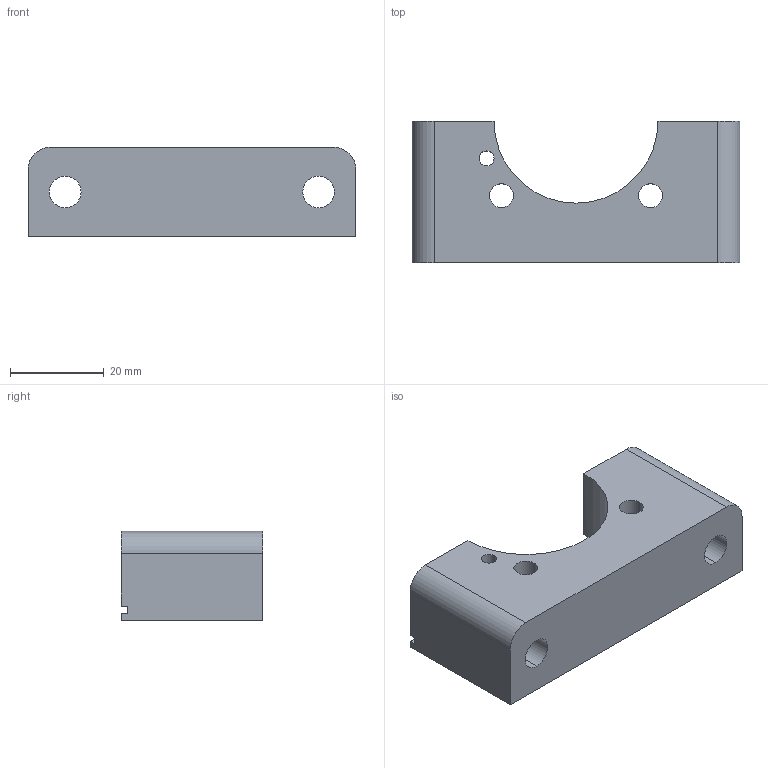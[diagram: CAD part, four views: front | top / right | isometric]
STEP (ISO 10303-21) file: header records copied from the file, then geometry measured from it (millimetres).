
FILE_DESCRIPTION (( 'STEP AP203' ), '1' );
FILE_NAME ('269-18-219.STEP', '2020-03-03T18:28:31', ( '' ), ( '' ), 'SwSTEP 2.0', 'SolidWorks 2017', '' );
FILE_SCHEMA (( 'CONFIG_CONTROL_DESIGN' ));
Length unit declared in the file: inch
Products named in the file (1): 269-18-219
Bounding box: 69.85 x 30.16 x 19.05 mm (x, y, z)
Volume: 25238.9 mm3; surface area: 9706.9 mm2
Topology: 1 solids, 1 shells, 34 faces, 90 edges, 60 vertices
Faces by surface type: cylinder 17, plane 17
Entity records: 1171 total; most frequent: DIRECTION 198, CARTESIAN_POINT 185, ORIENTED_EDGE 180, EDGE_CURVE 90, AXIS2_PLACEMENT_3D 73, VERTEX_POINT 60, LINE 52, VECTOR 52
